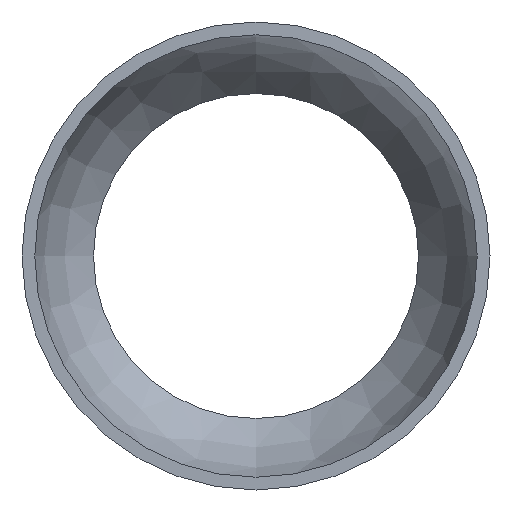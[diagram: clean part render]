
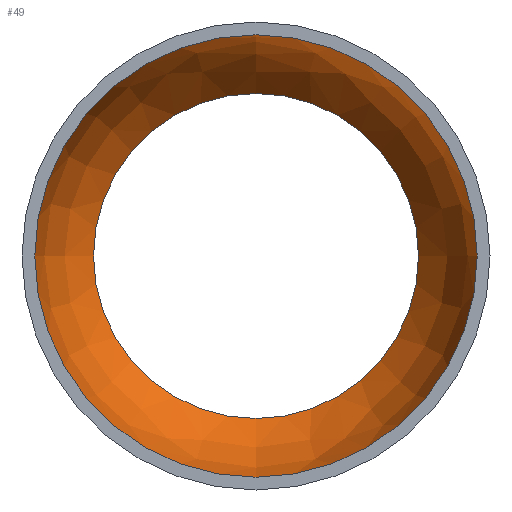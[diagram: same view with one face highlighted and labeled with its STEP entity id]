
A CAD part, front view. The second image highlights one B-rep face of the part: STEP entity #49.
In plain terms, the highlighted free-form (B-spline) face has degree [3, 3] with [4, 7] control points.
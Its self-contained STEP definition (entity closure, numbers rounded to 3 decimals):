
#49 = ADVANCED_FACE( '', ( #104, #105 ), #106, .F. );
#104 = FACE_OUTER_BOUND( '', #165, .T. );
#105 = FACE_OUTER_BOUND( '', #166, .T. );
#106 = ( BOUNDED_SURFACE(  )B_SPLINE_SURFACE( 3, 3, ( ( #169, #170, #171, #172, #173, #174, #175 ), ( #176, #177, #178, #179, #180, #181, #182 ), ( #183, #184, #185, #186, #187, #188, #189 ), ( #190, #191, #192, #193, #194, #195, #196 ) ), .UNSPECIFIED., .F., .T., .F. )B_SPLINE_SURFACE_WITH_KNOTS( ( 4, 4 ), ( 4, 3, 4 ), ( 0., 6.283 ), ( 0.089, 0.421, 0.752 ), .UNSPECIFIED. )GEOMETRIC_REPRESENTATION_ITEM(  )RATIONAL_B_SPLINE_SURFACE( ( ( 1., 0.333, 0.333, 1., 0.333, 0.333, 1. ), ( 0.964, 0.321, 0.321, 0.964, 0.321, 0.321, 0.964 ), ( 0.964, 0.321, 0.321, 0.964, 0.321, 0.321, 0.964 ), ( 1., 0.333, 0.333, 1., 0.333, 0.333, 1. ) ) )REPRESENTATION_ITEM( '' )SURFACE(  ) );
#165 = EDGE_LOOP( '', ( #300 ) );
#166 = EDGE_LOOP( '', ( #301 ) );
#169 = CARTESIAN_POINT( '', ( 0., 50.498, 62.5 ) );
#170 = CARTESIAN_POINT( '', ( 125., 50.498, 62.5 ) );
#171 = CARTESIAN_POINT( '', ( 125., 50.498, -62.5 ) );
#172 = CARTESIAN_POINT( '', ( 0., 50.498, -62.5 ) );
#173 = CARTESIAN_POINT( '', ( -125., 50.498, -62.5 ) );
#174 = CARTESIAN_POINT( '', ( -125., 50.498, 62.5 ) );
#175 = CARTESIAN_POINT( '', ( 0., 50.498, 62.5 ) );
#176 = CARTESIAN_POINT( '', ( 0., 36.52, 75.562 ) );
#177 = CARTESIAN_POINT( '', ( 151.124, 36.52, 75.562 ) );
#178 = CARTESIAN_POINT( '', ( 151.124, 36.52, -75.562 ) );
#179 = CARTESIAN_POINT( '', ( 0., 36.52, -75.562 ) );
#180 = CARTESIAN_POINT( '', ( -151.124, 36.52, -75.562 ) );
#181 = CARTESIAN_POINT( '', ( -151.124, 36.52, 75.562 ) );
#182 = CARTESIAN_POINT( '', ( 0., 36.52, 75.562 ) );
#183 = CARTESIAN_POINT( '', ( 0., 19.055, 83.372 ) );
#184 = CARTESIAN_POINT( '', ( 166.744, 19.055, 83.372 ) );
#185 = CARTESIAN_POINT( '', ( 166.744, 19.055, -83.372 ) );
#186 = CARTESIAN_POINT( '', ( 0., 19.055, -83.372 ) );
#187 = CARTESIAN_POINT( '', ( -166.744, 19.055, -83.372 ) );
#188 = CARTESIAN_POINT( '', ( -166.744, 19.055, 83.372 ) );
#189 = CARTESIAN_POINT( '', ( 0., 19.055, 83.372 ) );
#190 = CARTESIAN_POINT( '', ( 0., 0., 85.081 ) );
#191 = CARTESIAN_POINT( '', ( 170.163, 0., 85.081 ) );
#192 = CARTESIAN_POINT( '', ( 170.163, 0., -85.081 ) );
#193 = CARTESIAN_POINT( '', ( 0., 0., -85.081 ) );
#194 = CARTESIAN_POINT( '', ( -170.163, 0., -85.081 ) );
#195 = CARTESIAN_POINT( '', ( -170.163, 0., 85.081 ) );
#196 = CARTESIAN_POINT( '', ( 0., 0., 85.081 ) );
#300 = ORIENTED_EDGE( '', *, *, #351, .F. );
#301 = ORIENTED_EDGE( '', *, *, #339, .T. );
#339 = EDGE_CURVE( '', #368, #368, #369, .T. );
#351 = EDGE_CURVE( '', #387, #387, #388, .T. );
#368 = VERTEX_POINT( '', #407 );
#369 = CIRCLE( '', #408, 62.5 );
#387 = VERTEX_POINT( '', #426 );
#388 = CIRCLE( '', #427, 85.081 );
#407 = CARTESIAN_POINT( '', ( 0., 50.498, 62.5 ) );
#408 = AXIS2_PLACEMENT_3D( '', #446, #447, #448 );
#426 = CARTESIAN_POINT( '', ( 0., 0., 85.081 ) );
#427 = AXIS2_PLACEMENT_3D( '', #467, #468, #469 );
#446 = CARTESIAN_POINT( '', ( 0., 50.498, 0. ) );
#447 = DIRECTION( '', ( 0., 1., 0. ) );
#448 = DIRECTION( '', ( 0., 0., 1. ) );
#467 = CARTESIAN_POINT( '', ( 0., 0., 0. ) );
#468 = DIRECTION( '', ( 0., 1., 0. ) );
#469 = DIRECTION( '', ( 0., 0., 1. ) );
